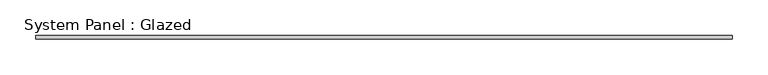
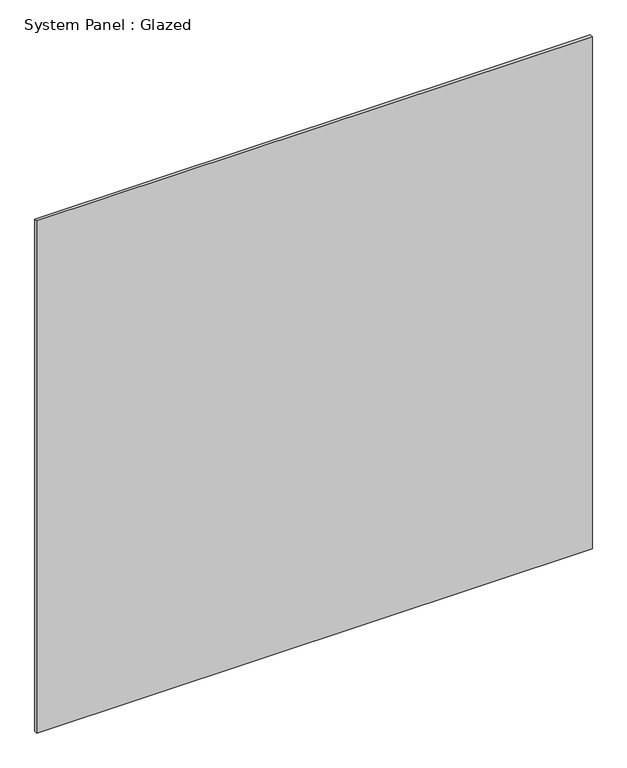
"""IFC4 building model written with IfcOpenShell, lengths in millimetres: plate geometry, System Panel : Glazed."""

import ifcopenshell
import ifcopenshell.guid

model = None  # the IFC model being written
_history = None  # IfcOwnerHistory: only IFC2X3 demands one
_inside = {}  # id of a spatial element -> (the spatial element, [elements in it])
_under = {}  # id of a project, library or spatial element -> (it, [spatial elements below it])
_declared = {}  # id of a project -> (the project, [libraries it declares])
_typed = {}  # id of a type object -> (the type object, [elements of that type])
_made_of = {}  # id of a material, layer set ... -> (it, [elements and type objects made of it])


def new_model(schema):
    """Start an empty IFC model of exactly this schema.

    Asked for "IFC4X3", IfcOpenShell would pick the latest addendum, in which some entities
    have other attributes; the version numbers below select the first issue.
    IFC2X3 requires an IfcOwnerHistory on every rooted entity: one is made here for all.
    """
    global model, _history
    if schema == "IFC4X3":
        model = ifcopenshell.file(schema_version=(4, 3, 0, 0))
    else:
        model = ifcopenshell.file(schema=schema)
    _inside.clear()
    _under.clear()
    _declared.clear()
    _typed.clear()
    _made_of.clear()
    _history = None
    if model.schema == "IFC2X3":
        org = make("IfcOrganization", Name="unknown")
        user = make(
            "IfcPersonAndOrganization",
            ThePerson=make("IfcPerson", FamilyName="unknown"),
            TheOrganization=org,
        )
        app = make(
            "IfcApplication",
            ApplicationDeveloper=org,
            Version="unknown",
            ApplicationFullName="unknown",
            ApplicationIdentifier="unknown",
        )
        _history = make(
            "IfcOwnerHistory",
            OwningUser=user,
            OwningApplication=app,
            ChangeAction="ADDED",
            CreationDate=0,
        )
    return model


def make(cls, **values):
    """One entity of the class cls with the attributes given. An attribute that is None is left unset."""
    return model.create_entity(
        cls, **{name: value for name, value in values.items() if value is not None}
    )


def rooted(cls, **values):
    """An entity with a GlobalId (a new one), such as an element, a storey or a relation."""
    return make(cls, GlobalId=ifcopenshell.guid.new(), OwnerHistory=_history, **values)


def si_unit(unit_type, name, prefix=None):
    """IfcSIUnit, for example si_unit("LENGTHUNIT", "METRE", prefix="MILLI")."""
    return make("IfcSIUnit", UnitType=unit_type, Prefix=prefix, Name=name)


def assignment(units):
    """IfcUnitAssignment: the units of a project."""
    return None if units is None else make("IfcUnitAssignment", Units=units)


def point(xyz):
    """IfcCartesianPoint."""
    return None if xyz is None else make("IfcCartesianPoint", Coordinates=xyz)


def direction(xyz):
    """IfcDirection."""
    return None if xyz is None else make("IfcDirection", DirectionRatios=xyz)


def frame(location, z_axis=None, x_axis=None):
    """IfcAxis2Placement3D, a coordinate frame: its origin and axes. An axis left out is left unset."""
    return make(
        "IfcAxis2Placement3D",
        Location=point(location),
        Axis=direction(z_axis),
        RefDirection=direction(x_axis),
    )


def origin():
    """The frame at (0, 0, 0) with its axes left unset."""
    return frame((0.0, 0.0, 0.0))


def origin_with_axes():
    """The frame at (0, 0, 0) with the z axis (0, 0, 1) and the x axis (1, 0, 0) written out."""
    return frame((0.0, 0.0, 0.0), z_axis=(0.0, 0.0, 1.0), x_axis=(1.0, 0.0, 0.0))


def place(relative_to, where):
    """IfcLocalPlacement: puts the frame where relative to a parent placement (None: the world)."""
    return make(
        "IfcLocalPlacement", PlacementRelTo=relative_to, RelativePlacement=where
    )


def context(
    kind, dimensions, precision=None, world=None, true_north=None, identifier=None
):
    """IfcGeometricRepresentationContext, for example the 3D "Model" context."""
    return make(
        "IfcGeometricRepresentationContext",
        ContextIdentifier=identifier,
        ContextType=kind,
        CoordinateSpaceDimension=dimensions,
        Precision=precision,
        WorldCoordinateSystem=world,
        TrueNorth=true_north,
    )


def project(units=None, contexts=None):
    """IfcProject with its units and contexts."""
    return rooted(
        "IfcProject",
        Name="project",
        RepresentationContexts=contexts,
        UnitsInContext=assignment(units),
    )


def spatial(cls, under=None, at=None, **own):
    """A site, building, storey or space (cls), placed at a placement, below another one or the project."""
    s = rooted(cls, ObjectPlacement=at, **own)
    if under is not None:
        _under.setdefault(under.id(), (under, []))[1].append(s)
    return s


def polyline(points):
    """IfcPolyline through the points."""
    return make("IfcPolyline", Points=[point(p) for p in points])


def outline(outer, holes=None, kind="AREA"):
    """IfcArbitraryClosedProfileDef: a profile drawn as a closed curve; with holes, ...WithVoids."""
    if holes is None:
        return make("IfcArbitraryClosedProfileDef", ProfileType=kind, OuterCurve=outer)
    return make(
        "IfcArbitraryProfileDefWithVoids",
        ProfileType=kind,
        OuterCurve=outer,
        InnerCurves=holes,
    )


def extrude(swept, where, along, depth):
    """IfcExtrudedAreaSolid: the profile swept, set in the frame where, extruded along a direction by depth."""
    return make(
        "IfcExtrudedAreaSolid",
        SweptArea=swept,
        Position=where,
        ExtrudedDirection=direction(along),
        Depth=depth,
    )


def shape(context_of_items, identifier, shape_type, items):
    """IfcShapeRepresentation: the items that make up one representation, for example the "Body"."""
    return make(
        "IfcShapeRepresentation",
        ContextOfItems=context_of_items,
        RepresentationIdentifier=identifier,
        RepresentationType=shape_type,
        Items=items,
    )


def source(mapping_origin, context_of_items, identifier, shape_type, items):
    """IfcRepresentationMap: a shape defined once, which mapped items show again and again."""
    return make(
        "IfcRepresentationMap",
        MappingOrigin=mapping_origin,
        MappedRepresentation=shape(context_of_items, identifier, shape_type, items),
    )


def transform(
    local_origin,
    x_axis=None,
    y_axis=None,
    z_axis=None,
    scale=None,
    scale2=None,
    scale3=None,
    uniform=True,
):
    """IfcCartesianTransformationOperator3D, or its non-uniform kind. x_axis, y_axis, z_axis: its Axis1, 2, 3."""
    if uniform:
        return make(
            "IfcCartesianTransformationOperator3D",
            Axis1=direction(x_axis),
            Axis2=direction(y_axis),
            LocalOrigin=point(local_origin),
            Scale=scale,
            Axis3=direction(z_axis),
        )
    return make(
        "IfcCartesianTransformationOperator3DnonUniform",
        Axis1=direction(x_axis),
        Axis2=direction(y_axis),
        LocalOrigin=point(local_origin),
        Scale=scale,
        Axis3=direction(z_axis),
        Scale2=scale2,
        Scale3=scale3,
    )


def mapped(mapping_source, mapping_target):
    """IfcMappedItem: shows the shape of a source again, moved by a transform."""
    return make(
        "IfcMappedItem", MappingSource=mapping_source, MappingTarget=mapping_target
    )


def made_of(thing, what):
    """Note that an element or type object is made of a material, layer set ...; save() writes the relation."""
    if what is not None:
        _made_of.setdefault(what.id(), (what, []))[1].append(thing)
    return thing


def element(
    cls,
    number,
    at=None,
    inside=None,
    cuts=None,
    type_object=None,
    material=None,
    context=None,
    identifier="Body",
    shape_type=None,
    held_by="IfcProductDefinitionShape",
    body=None,
    shapes=None,
    **own,
):
    """One element of the class cls, such as IfcWall. Its Tag is "e" and its number.

    at: its placement. inside: the storey or other place that contains it. cuts: it is an
    opening in that element (IfcRelVoidsElement). A single representation is given by context,
    identifier, shape_type and body (its items); several are given by shapes. held_by: the class
    of the entity that holds the representations. save() writes the other relations.
    """
    e = rooted(cls, Tag="e%d" % number, ObjectPlacement=at, **own)
    if body is not None:
        shapes = [shape(context, identifier, shape_type, body)]
    if shapes is not None:
        e.Representation = make(held_by, Representations=shapes)
    if inside is not None:
        _inside.setdefault(inside.id(), (inside, []))[1].append(e)
    if cuts is not None:
        rooted(
            "IfcRelVoidsElement", RelatingBuildingElement=cuts, RelatedOpeningElement=e
        )
    if type_object is not None:
        _typed.setdefault(type_object.id(), (type_object, []))[1].append(e)
    return made_of(e, material)


def aggregate(whole, parts):
    """IfcRelAggregates: a whole, such as a stair, and the parts it consists of."""
    return rooted("IfcRelAggregates", RelatingObject=whole, RelatedObjects=parts)


def save(model, path):
    """Write the relations noted so far, then the file.

    IfcRelAggregates (storeys below a building ...), IfcRelContainedInSpatialStructure (elements
    in a storey), IfcRelDefinesByType, IfcRelAssociatesMaterial and IfcRelDeclares: one each for
    every whole, place, type object, material and project.
    """
    for whole, parts in _under.values():
        aggregate(whole, parts)
    for where, things in _inside.values():
        rooted(
            "IfcRelContainedInSpatialStructure",
            RelatedElements=things,
            RelatingStructure=where,
        )
    for kind, things in _typed.values():
        rooted("IfcRelDefinesByType", RelatedObjects=things, RelatingType=kind)
    for what, things in _made_of.values():
        rooted("IfcRelAssociatesMaterial", RelatedObjects=things, RelatingMaterial=what)
    for by, libraries in _declared.values():
        rooted("IfcRelDeclares", RelatingContext=by, RelatedDefinitions=libraries)
    model.write(path)


def system_panel_glazed_51a322f3(model_context):
    return source(origin(), model_context, "Body", "SweptSolid", [
        extrude(outline(polyline([(487.5, -2.5), (-487.5, -2.5), (-487.5, 2.5), (487.5, 2.5), (487.5, -2.5)])), origin_with_axes(), (0.0, 0.0, 1.0), 950.0),
    ])


if __name__ == "__main__":
    model = new_model("IFC4")
    model_context = context("Model", 3, world=origin())
    ifc_project = project(units=[si_unit("LENGTHUNIT", "METRE", prefix="MILLI")], contexts=[model_context])
    site = spatial("IfcSite", under=ifc_project)
    building = spatial("IfcBuilding", under=site)
    placement = place(None, origin())
    system_panel_glazed_shape = system_panel_glazed_51a322f3(model_context)
    element("IfcPlate", 1, ObjectType="System Panel : Glazed", at=placement, inside=building, context=model_context, shape_type="MappedRepresentation", body=[
        mapped(system_panel_glazed_shape, transform((0.0, 0.0, 0.0), x_axis=(1.0, 0.0, 0.0), y_axis=(0.0, 1.0, 0.0), z_axis=(0.0, 0.0, 1.0))),
    ])
    save(model, "model.ifc")
